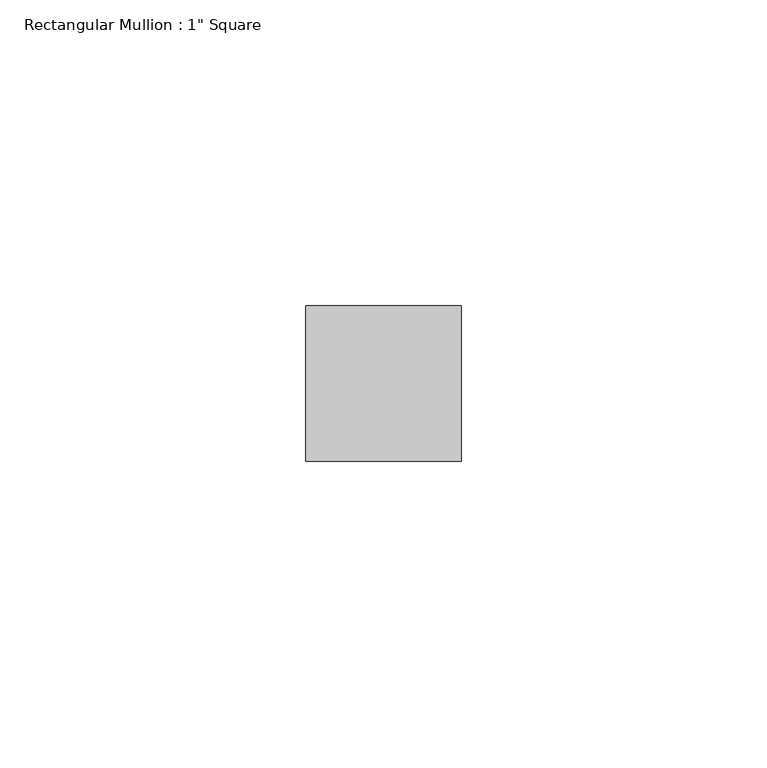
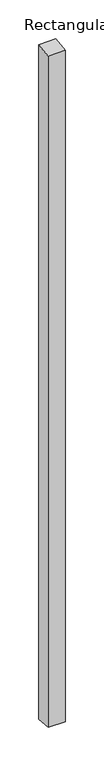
"""IFC4 building model written with IfcOpenShell, lengths in millimetres: member geometry."""

from ifc_helpers import new_model, si_unit, origin, place, context, project, spatial, faceted_brep, source, transform, mapped, element, save


def member_e5dce827(model_context):
    return source(origin(), model_context, "Body", "Brep", [
        faceted_brep([(-25.4, 12.7, 0.9042574), (0.0, 12.7, 1.465248), (0.0, 12.7, -1068.265248), (-25.4, 12.7, -1067.7042574), (-25.4, -12.7, -2.0262387), (-25.4, -12.7, -1064.7737613), (0.0, -12.7, -1.465248), (0.0, -12.7, -1065.334752)], [[[0, 1, 2, 3]], [[4, 0, 3, 5]], [[6, 4, 5, 7]], [[1, 6, 7, 2]], [[1, 0, 4, 6]], [[2, 7, 5, 3]]]),
    ])


if __name__ == "__main__":
    model = new_model("IFC4")
    model_context = context("Model", 3, world=origin())
    ifc_project = project(units=[si_unit("LENGTHUNIT", "METRE", prefix="MILLI")], contexts=[model_context])
    site = spatial("IfcSite", under=ifc_project)
    building = spatial("IfcBuilding", under=site)
    placement = place(None, origin())
    member_shape = member_e5dce827(model_context)
    element("IfcMember", 1, ObjectType="Rectangular Mullion : 1\" Square", at=placement, inside=building, context=model_context, shape_type="MappedRepresentation", body=[
        mapped(member_shape, transform((0.0, 0.0, 0.0), x_axis=(1.0, 0.0, 0.0), y_axis=(0.0, 1.0, 0.0), z_axis=(0.0, 0.0, 1.0))),
    ])
    save(model, "model.ifc")
